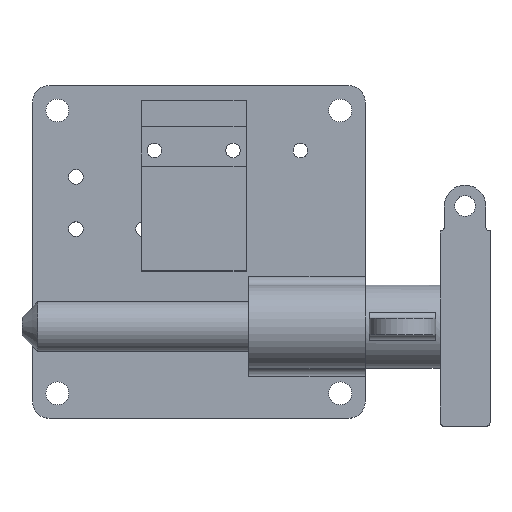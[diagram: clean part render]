
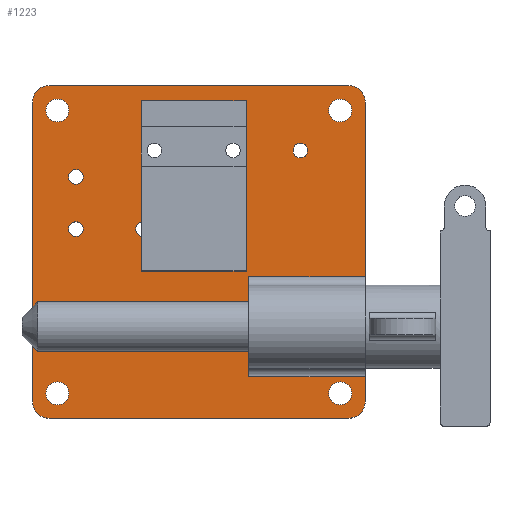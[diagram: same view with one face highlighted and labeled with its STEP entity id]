
A CAD part, top view. The second image highlights one B-rep face of the part: STEP entity #1223.
In plain terms, the highlighted planar face has unit normal (0, 0, 1).
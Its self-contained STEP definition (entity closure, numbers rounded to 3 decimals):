
#18=LINE('',#1863,#110);
#21=LINE('',#1869,#113);
#22=LINE('',#1871,#114);
#23=LINE('',#1873,#115);
#24=LINE('',#1875,#116);
#25=LINE('',#1877,#117);
#26=LINE('',#1881,#118);
#27=LINE('',#1885,#119);
#110=VECTOR('',#1508,10.);
#113=VECTOR('',#1513,10.);
#114=VECTOR('',#1514,10.);
#115=VECTOR('',#1515,10.);
#116=VECTOR('',#1516,10.);
#117=VECTOR('',#1517,10.);
#118=VECTOR('',#1520,10.);
#119=VECTOR('',#1523,10.);
#202=PLANE('',#1327);
#280=FACE_BOUND('',#412,.T.);
#281=FACE_BOUND('',#413,.T.);
#282=FACE_BOUND('',#414,.T.);
#283=FACE_BOUND('',#415,.T.);
#284=FACE_BOUND('',#416,.T.);
#285=FACE_BOUND('',#417,.T.);
#286=FACE_BOUND('',#418,.T.);
#287=FACE_BOUND('',#419,.T.);
#288=FACE_BOUND('',#420,.T.);
#289=FACE_BOUND('',#421,.T.);
#330=FACE_OUTER_BOUND('',#411,.T.);
#411=EDGE_LOOP('',(#877,#878,#879,#880,#881,#882,#883,#884,#885,#886,#887,
#888));
#412=EDGE_LOOP('',(#889));
#413=EDGE_LOOP('',(#890));
#414=EDGE_LOOP('',(#891));
#415=EDGE_LOOP('',(#892));
#416=EDGE_LOOP('',(#893));
#417=EDGE_LOOP('',(#894));
#418=EDGE_LOOP('',(#895));
#419=EDGE_LOOP('',(#896));
#420=EDGE_LOOP('',(#897));
#421=EDGE_LOOP('',(#898));
#504=CIRCLE('',#1295,2.795);
#506=CIRCLE('',#1298,2.795);
#508=CIRCLE('',#1301,2.795);
#510=CIRCLE('',#1304,2.795);
#512=CIRCLE('',#1307,2.795);
#514=CIRCLE('',#1310,2.795);
#516=CIRCLE('',#1313,4.37);
#518=CIRCLE('',#1316,4.37);
#520=CIRCLE('',#1319,4.37);
#522=CIRCLE('',#1322,4.37);
#523=CIRCLE('',#1324,6.35);
#525=CIRCLE('',#1328,6.35);
#526=CIRCLE('',#1329,6.35);
#527=CIRCLE('',#1330,6.35);
#572=VERTEX_POINT('',#1805);
#574=VERTEX_POINT('',#1810);
#576=VERTEX_POINT('',#1815);
#578=VERTEX_POINT('',#1820);
#580=VERTEX_POINT('',#1825);
#582=VERTEX_POINT('',#1830);
#584=VERTEX_POINT('',#1835);
#586=VERTEX_POINT('',#1840);
#588=VERTEX_POINT('',#1845);
#590=VERTEX_POINT('',#1850);
#591=VERTEX_POINT('',#1853);
#592=VERTEX_POINT('',#1854);
#595=VERTEX_POINT('',#1862);
#597=VERTEX_POINT('',#1868);
#598=VERTEX_POINT('',#1870);
#599=VERTEX_POINT('',#1872);
#600=VERTEX_POINT('',#1874);
#601=VERTEX_POINT('',#1876);
#602=VERTEX_POINT('',#1878);
#603=VERTEX_POINT('',#1880);
#604=VERTEX_POINT('',#1882);
#605=VERTEX_POINT('',#1884);
#688=EDGE_CURVE('',#572,#572,#504,.T.);
#690=EDGE_CURVE('',#574,#574,#506,.T.);
#692=EDGE_CURVE('',#576,#576,#508,.T.);
#694=EDGE_CURVE('',#578,#578,#510,.T.);
#696=EDGE_CURVE('',#580,#580,#512,.T.);
#698=EDGE_CURVE('',#582,#582,#514,.T.);
#700=EDGE_CURVE('',#584,#584,#516,.T.);
#702=EDGE_CURVE('',#586,#586,#518,.T.);
#704=EDGE_CURVE('',#588,#588,#520,.T.);
#706=EDGE_CURVE('',#590,#590,#522,.T.);
#707=EDGE_CURVE('',#591,#592,#523,.T.);
#711=EDGE_CURVE('',#595,#592,#18,.T.);
#714=EDGE_CURVE('',#591,#597,#21,.T.);
#715=EDGE_CURVE('',#598,#597,#22,.T.);
#716=EDGE_CURVE('',#598,#599,#23,.T.);
#717=EDGE_CURVE('',#600,#599,#24,.T.);
#718=EDGE_CURVE('',#600,#601,#25,.T.);
#719=EDGE_CURVE('',#602,#601,#525,.T.);
#720=EDGE_CURVE('',#602,#603,#26,.T.);
#721=EDGE_CURVE('',#604,#603,#526,.T.);
#722=EDGE_CURVE('',#604,#605,#27,.T.);
#723=EDGE_CURVE('',#595,#605,#527,.T.);
#877=ORIENTED_EDGE('',*,*,#707,.F.);
#878=ORIENTED_EDGE('',*,*,#714,.T.);
#879=ORIENTED_EDGE('',*,*,#715,.F.);
#880=ORIENTED_EDGE('',*,*,#716,.T.);
#881=ORIENTED_EDGE('',*,*,#717,.F.);
#882=ORIENTED_EDGE('',*,*,#718,.T.);
#883=ORIENTED_EDGE('',*,*,#719,.F.);
#884=ORIENTED_EDGE('',*,*,#720,.T.);
#885=ORIENTED_EDGE('',*,*,#721,.F.);
#886=ORIENTED_EDGE('',*,*,#722,.T.);
#887=ORIENTED_EDGE('',*,*,#723,.F.);
#888=ORIENTED_EDGE('',*,*,#711,.T.);
#889=ORIENTED_EDGE('',*,*,#688,.T.);
#890=ORIENTED_EDGE('',*,*,#690,.T.);
#891=ORIENTED_EDGE('',*,*,#692,.T.);
#892=ORIENTED_EDGE('',*,*,#694,.T.);
#893=ORIENTED_EDGE('',*,*,#696,.T.);
#894=ORIENTED_EDGE('',*,*,#698,.T.);
#895=ORIENTED_EDGE('',*,*,#700,.T.);
#896=ORIENTED_EDGE('',*,*,#702,.T.);
#897=ORIENTED_EDGE('',*,*,#704,.T.);
#898=ORIENTED_EDGE('',*,*,#706,.T.);
#1223=ADVANCED_FACE('',(#330,#280,#281,#282,#283,#284,#285,#286,#287,#288,
#289),#202,.T.);
#1295=AXIS2_PLACEMENT_3D('',#1806,#1442,#1443);
#1298=AXIS2_PLACEMENT_3D('',#1811,#1448,#1449);
#1301=AXIS2_PLACEMENT_3D('',#1816,#1454,#1455);
#1304=AXIS2_PLACEMENT_3D('',#1821,#1460,#1461);
#1307=AXIS2_PLACEMENT_3D('',#1826,#1466,#1467);
#1310=AXIS2_PLACEMENT_3D('',#1831,#1472,#1473);
#1313=AXIS2_PLACEMENT_3D('',#1836,#1478,#1479);
#1316=AXIS2_PLACEMENT_3D('',#1841,#1484,#1485);
#1319=AXIS2_PLACEMENT_3D('',#1846,#1490,#1491);
#1322=AXIS2_PLACEMENT_3D('',#1851,#1496,#1497);
#1324=AXIS2_PLACEMENT_3D('',#1855,#1500,#1501);
#1327=AXIS2_PLACEMENT_3D('',#1867,#1511,#1512);
#1328=AXIS2_PLACEMENT_3D('',#1879,#1518,#1519);
#1329=AXIS2_PLACEMENT_3D('',#1883,#1521,#1522);
#1330=AXIS2_PLACEMENT_3D('',#1886,#1524,#1525);
#1442=DIRECTION('center_axis',(0.,0.,-1.));
#1443=DIRECTION('ref_axis',(1.,0.,0.));
#1448=DIRECTION('center_axis',(0.,0.,-1.));
#1449=DIRECTION('ref_axis',(1.,0.,0.));
#1454=DIRECTION('center_axis',(0.,0.,-1.));
#1455=DIRECTION('ref_axis',(1.,0.,0.));
#1460=DIRECTION('center_axis',(0.,0.,-1.));
#1461=DIRECTION('ref_axis',(1.,0.,0.));
#1466=DIRECTION('center_axis',(0.,0.,-1.));
#1467=DIRECTION('ref_axis',(1.,0.,0.));
#1472=DIRECTION('center_axis',(0.,0.,-1.));
#1473=DIRECTION('ref_axis',(1.,0.,0.));
#1478=DIRECTION('center_axis',(0.,0.,-1.));
#1479=DIRECTION('ref_axis',(1.,0.,0.));
#1484=DIRECTION('center_axis',(0.,0.,-1.));
#1485=DIRECTION('ref_axis',(1.,0.,0.));
#1490=DIRECTION('center_axis',(0.,0.,-1.));
#1491=DIRECTION('ref_axis',(1.,0.,0.));
#1496=DIRECTION('center_axis',(0.,0.,-1.));
#1497=DIRECTION('ref_axis',(1.,0.,0.));
#1500=DIRECTION('center_axis',(0.,0.,-1.));
#1501=DIRECTION('ref_axis',(0.707,-0.707,0.));
#1508=DIRECTION('',(1.,0.,0.));
#1511=DIRECTION('center_axis',(0.,0.,1.));
#1512=DIRECTION('ref_axis',(1.,0.,0.));
#1513=DIRECTION('',(0.,1.,0.));
#1514=DIRECTION('',(1.,0.,0.));
#1515=DIRECTION('',(0.,1.,0.));
#1516=DIRECTION('',(-1.,0.,0.));
#1517=DIRECTION('',(0.,1.,0.));
#1518=DIRECTION('center_axis',(0.,0.,-1.));
#1519=DIRECTION('ref_axis',(0.707,0.707,0.));
#1520=DIRECTION('',(-1.,0.,0.));
#1521=DIRECTION('center_axis',(0.,0.,-1.));
#1522=DIRECTION('ref_axis',(-0.707,0.707,0.));
#1523=DIRECTION('',(0.,-1.,0.));
#1524=DIRECTION('center_axis',(0.,0.,-1.));
#1525=DIRECTION('ref_axis',(-0.707,-0.707,0.));
#1805=CARTESIAN_POINT('',(-44.165,8.66,9.525));
#1806=CARTESIAN_POINT('Origin',(-46.96,8.66,9.525));
#1810=CARTESIAN_POINT('',(-14.175,38.68,9.525));
#1811=CARTESIAN_POINT('Origin',(-16.97,38.68,9.525));
#1815=CARTESIAN_POINT('',(41.535,38.68,9.525));
#1816=CARTESIAN_POINT('Origin',(38.74,38.68,9.525));
#1820=CARTESIAN_POINT('',(15.825,38.68,9.525));
#1821=CARTESIAN_POINT('Origin',(13.03,38.68,9.525));
#1825=CARTESIAN_POINT('',(-18.465,8.66,9.525));
#1826=CARTESIAN_POINT('Origin',(-21.26,8.66,9.525));
#1830=CARTESIAN_POINT('',(-44.165,28.65,9.525));
#1831=CARTESIAN_POINT('Origin',(-46.96,28.65,9.525));
#1835=CARTESIAN_POINT('',(-49.605,-53.975,9.525));
#1836=CARTESIAN_POINT('Origin',(-53.975,-53.975,9.525));
#1840=CARTESIAN_POINT('',(58.345,53.975,9.525));
#1841=CARTESIAN_POINT('Origin',(53.975,53.975,9.525));
#1845=CARTESIAN_POINT('',(-49.605,53.975,9.525));
#1846=CARTESIAN_POINT('Origin',(-53.975,53.975,9.525));
#1850=CARTESIAN_POINT('',(58.345,-53.975,9.525));
#1851=CARTESIAN_POINT('Origin',(53.975,-53.975,9.525));
#1853=CARTESIAN_POINT('',(63.5,-57.15,9.525));
#1854=CARTESIAN_POINT('',(57.15,-63.5,9.525));
#1855=CARTESIAN_POINT('Origin',(57.15,-57.15,9.525));
#1862=CARTESIAN_POINT('',(-57.15,-63.5,9.525));
#1863=CARTESIAN_POINT('',(-63.5,-63.5,9.525));
#1867=CARTESIAN_POINT('Origin',(0.,0.,9.525));
#1868=CARTESIAN_POINT('',(63.5,-47.625,9.525));
#1869=CARTESIAN_POINT('',(63.5,-63.5,9.525));
#1870=CARTESIAN_POINT('',(19.05,-47.625,9.525));
#1871=CARTESIAN_POINT('',(31.75,-47.625,9.525));
#1872=CARTESIAN_POINT('',(19.05,-9.525,9.525));
#1873=CARTESIAN_POINT('',(19.05,-14.288,9.525));
#1874=CARTESIAN_POINT('',(63.5,-9.525,9.525));
#1875=CARTESIAN_POINT('',(31.75,-9.525,9.525));
#1876=CARTESIAN_POINT('',(63.5,57.15,9.525));
#1877=CARTESIAN_POINT('',(63.5,-63.5,9.525));
#1878=CARTESIAN_POINT('',(57.15,63.5,9.525));
#1879=CARTESIAN_POINT('Origin',(57.15,57.15,9.525));
#1880=CARTESIAN_POINT('',(-57.15,63.5,9.525));
#1881=CARTESIAN_POINT('',(63.5,63.5,9.525));
#1882=CARTESIAN_POINT('',(-63.5,57.15,9.525));
#1883=CARTESIAN_POINT('Origin',(-57.15,57.15,9.525));
#1884=CARTESIAN_POINT('',(-63.5,-57.15,9.525));
#1885=CARTESIAN_POINT('',(-63.5,63.5,9.525));
#1886=CARTESIAN_POINT('Origin',(-57.15,-57.15,9.525));
